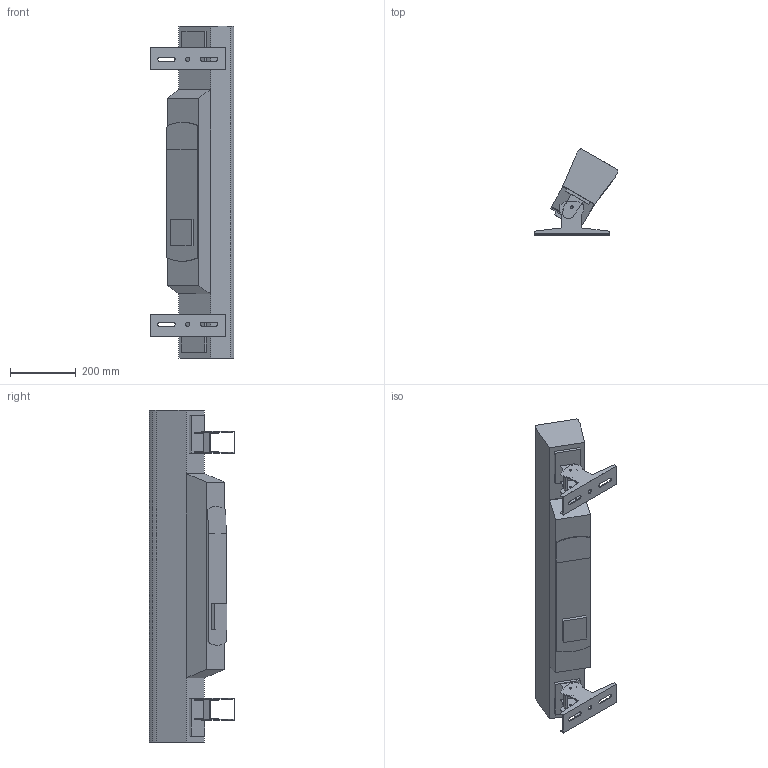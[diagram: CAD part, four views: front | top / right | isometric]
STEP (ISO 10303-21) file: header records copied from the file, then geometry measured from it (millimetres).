
FILE_DESCRIPTION(/* description */ (''),/* implementation_level */ '2;1');
FILE_NAME(/* name */ 'D:/dgooch/Documents/CADENG/PRO/Colorado Solo Batten/30/Colorado Solo Batten_30.step',/* time_stamp */ '2019-03-25T14:13:13-04:00',/* author */ ('dgooch'),/* organization */ (''),/* preprocessor_version */ 'ST-DEVELOPER v17.2',/* originating_system */ 'Autodesk Translation Framework v7.6.0.251',/* authorisation */ '');
FILE_SCHEMA (('AUTOMOTIVE_DESIGN { 1 0 10303 214 3 1 1 }'));
Length unit declared in the file: millimetre
Products named in the file (4): Colorado Solo Batten; Bracket ; Bracket (Mirror); Main
Assembly tree (3 placements, depth 2):
  Colorado Solo Batten
    Bracket 
    Bracket (Mirror)
    Main
Bounding box: 256.16 x 262.4 x 1013.1 mm (x, y, z)
Volume: 21087738.4 mm3; surface area: 818094.3 mm2
Topology: 3 solids, 3 shells, 147 faces, 433 edges, 298 vertices
Faces by surface type: plane 105, cylinder 40, bspline 2
Full cylindrical faces by diameter (mm): 6.8 x4, 8.5 x4, 13 x2
Entity records: 5182 total; most frequent: CARTESIAN_POINT 975, ORIENTED_EDGE 866, DIRECTION 827, EDGE_CURVE 433, LINE 335, VECTOR 335, VERTEX_POINT 298, AXIS2_PLACEMENT_3D 246
